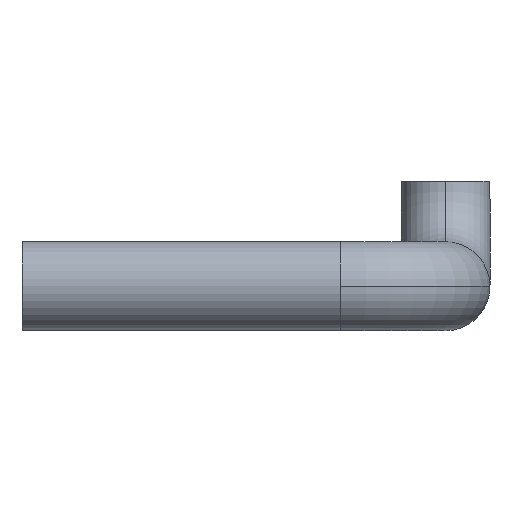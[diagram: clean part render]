
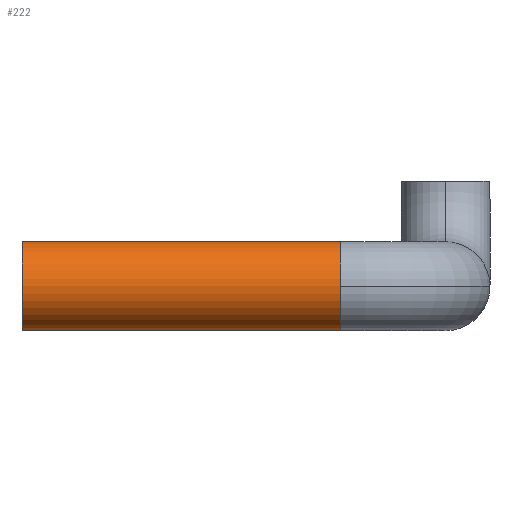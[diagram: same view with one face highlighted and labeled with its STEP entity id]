
A CAD part, left-side view. The second image highlights one B-rep face of the part: STEP entity #222.
In plain terms, the highlighted cylindrical face has radius 24.15 mm (diameter 48.3 mm), a partial arc.
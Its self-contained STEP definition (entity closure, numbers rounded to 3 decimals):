
#33 = CARTESIAN_POINT ( 'NONE',  ( -20350., 1867., -5285.85 ) ) ;
#38 = DIRECTION ( 'NONE',  ( 0., 1., 0. ) ) ;
#50 = DIRECTION ( 'NONE',  ( 0., 0., -1. ) ) ;
#80 = EDGE_CURVE ( 'NONE', #123, #500, #118, .T. ) ;
#118 = CIRCLE ( 'NONE', #356, 24.15 ) ;
#123 = VERTEX_POINT ( 'NONE', #221 ) ;
#132 = VECTOR ( 'NONE', #287, 1000. ) ;
#144 = EDGE_LOOP ( 'NONE', ( #584, #357, #305, #481, #549 ) ) ;
#147 = EDGE_CURVE ( 'NONE', #187, #327, #156, .T. ) ;
#156 = LINE ( 'NONE', #522, #132 ) ;
#158 = DIRECTION ( 'NONE',  ( 0., -1., 0. ) ) ;
#171 = CIRCLE ( 'NONE', #479, 24.15 ) ;
#187 = VERTEX_POINT ( 'NONE', #502 ) ;
#191 = AXIS2_PLACEMENT_3D ( 'NONE', #33, #403, #594 ) ;
#201 = EDGE_CURVE ( 'NONE', #327, #467, #171, .T. ) ;
#206 = CARTESIAN_POINT ( 'NONE',  ( -20350., 2040., -5310. ) ) ;
#221 = CARTESIAN_POINT ( 'NONE',  ( -20374.15, 1867., -5285.85 ) ) ;
#222 = ADVANCED_FACE ( 'NONE', ( #462 ), #397, .T. ) ;
#235 = DIRECTION ( 'NONE',  ( 0., -1., 0. ) ) ;
#270 = LINE ( 'NONE', #456, #468 ) ;
#286 = CARTESIAN_POINT ( 'NONE',  ( -20350., 2040., -5261.7 ) ) ;
#287 = DIRECTION ( 'NONE',  ( 0., 1., 0. ) ) ;
#288 = CARTESIAN_POINT ( 'NONE',  ( -20350., 1867., -5285.85 ) ) ;
#290 = DIRECTION ( 'NONE',  ( 0., 0., -1. ) ) ;
#298 = AXIS2_PLACEMENT_3D ( 'NONE', #288, #235, #50 ) ;
#305 = ORIENTED_EDGE ( 'NONE', *, *, #201, .T. ) ;
#311 = DIRECTION ( 'NONE',  ( 0., 0., -1. ) ) ;
#312 = EDGE_CURVE ( 'NONE', #500, #467, #270, .T. ) ;
#327 = VERTEX_POINT ( 'NONE', #286 ) ;
#346 = EDGE_CURVE ( 'NONE', #187, #123, #407, .T. ) ;
#356 = AXIS2_PLACEMENT_3D ( 'NONE', #524, #158, #290 ) ;
#357 = ORIENTED_EDGE ( 'NONE', *, *, #147, .T. ) ;
#397 = CYLINDRICAL_SURFACE ( 'NONE', #191, 24.15 ) ;
#400 = DIRECTION ( 'NONE',  ( 0., -1., 0. ) ) ;
#403 = DIRECTION ( 'NONE',  ( 0., 1., 0. ) ) ;
#407 = CIRCLE ( 'NONE', #298, 24.15 ) ;
#456 = CARTESIAN_POINT ( 'NONE',  ( -20350., 1867., -5310. ) ) ;
#462 = FACE_OUTER_BOUND ( 'NONE', #144, .T. ) ;
#467 = VERTEX_POINT ( 'NONE', #206 ) ;
#468 = VECTOR ( 'NONE', #38, 1000. ) ;
#479 = AXIS2_PLACEMENT_3D ( 'NONE', #550, #400, #311 ) ;
#481 = ORIENTED_EDGE ( 'NONE', *, *, #312, .F. ) ;
#486 = CARTESIAN_POINT ( 'NONE',  ( -20350., 1867., -5310. ) ) ;
#500 = VERTEX_POINT ( 'NONE', #486 ) ;
#502 = CARTESIAN_POINT ( 'NONE',  ( -20350., 1867., -5261.7 ) ) ;
#522 = CARTESIAN_POINT ( 'NONE',  ( -20350., 1867., -5261.7 ) ) ;
#524 = CARTESIAN_POINT ( 'NONE',  ( -20350., 1867., -5285.85 ) ) ;
#549 = ORIENTED_EDGE ( 'NONE', *, *, #80, .F. ) ;
#550 = CARTESIAN_POINT ( 'NONE',  ( -20350., 2040., -5285.85 ) ) ;
#584 = ORIENTED_EDGE ( 'NONE', *, *, #346, .F. ) ;
#594 = DIRECTION ( 'NONE',  ( 0., 0., -1. ) ) ;
